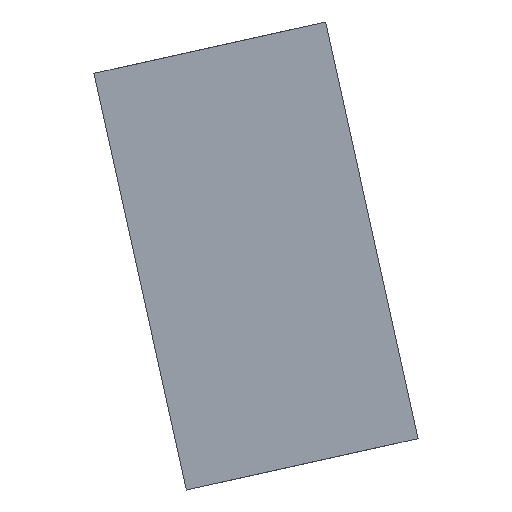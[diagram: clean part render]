
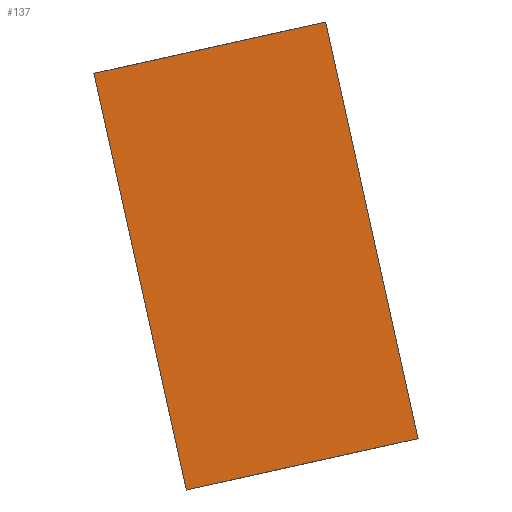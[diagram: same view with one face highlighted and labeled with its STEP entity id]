
A CAD part, front view. The second image highlights one B-rep face of the part: STEP entity #137.
In plain terms, the highlighted planar face has unit normal (0, -1, 0).
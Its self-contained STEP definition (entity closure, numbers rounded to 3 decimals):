
#21 = EDGE_CURVE('',#22,#24,#26,.T.);
#22 = VERTEX_POINT('',#23);
#23 = CARTESIAN_POINT('',(-5.083,229.455,-272.434));
#24 = VERTEX_POINT('',#25);
#25 = CARTESIAN_POINT('',(-13.739,229.455,-233.381));
#26 = SURFACE_CURVE('',#27,(#31,#43),.PCURVE_S1.);
#27 = LINE('',#28,#29);
#28 = CARTESIAN_POINT('',(-5.083,229.455,-272.434));
#29 = VECTOR('',#30,1.);
#30 = DIRECTION('',(-0.216,0.,0.976));
#31 = PCURVE('',#32,#37);
#32 = PLANE('',#33);
#33 = AXIS2_PLACEMENT_3D('',#34,#35,#36);
#34 = CARTESIAN_POINT('',(-5.083,229.455,-272.434));
#35 = DIRECTION('',(0.976,0.,0.216));
#36 = DIRECTION('',(-0.216,0.,0.976));
#37 = DEFINITIONAL_REPRESENTATION('',(#38),#42);
#38 = LINE('',#39,#40);
#39 = CARTESIAN_POINT('',(0.,0.));
#40 = VECTOR('',#41,1.);
#41 = DIRECTION('',(1.,0.));
#42 = ( GEOMETRIC_REPRESENTATION_CONTEXT(2) 
PARAMETRIC_REPRESENTATION_CONTEXT() REPRESENTATION_CONTEXT('2D SPACE',''
  ) );
#43 = PCURVE('',#44,#49);
#44 = PLANE('',#45);
#45 = AXIS2_PLACEMENT_3D('',#46,#47,#48);
#46 = CARTESIAN_POINT('',(-5.083,229.455,-272.434));
#47 = DIRECTION('',(0.,1.,0.));
#48 = DIRECTION('',(-0.216,0.,0.976));
#49 = DEFINITIONAL_REPRESENTATION('',(#50),#54);
#50 = LINE('',#51,#52);
#51 = CARTESIAN_POINT('',(0.,0.));
#52 = VECTOR('',#53,1.);
#53 = DIRECTION('',(1.,0.));
#54 = ( GEOMETRIC_REPRESENTATION_CONTEXT(2) 
PARAMETRIC_REPRESENTATION_CONTEXT() REPRESENTATION_CONTEXT('2D SPACE',''
  ) );
#72 = PLANE('',#73);
#73 = AXIS2_PLACEMENT_3D('',#74,#75,#76);
#74 = CARTESIAN_POINT('',(-5.083,229.455,-272.434));
#75 = DIRECTION('',(-0.216,0.,0.976));
#76 = DIRECTION('',(0.976,0.,0.216));
#126 = PLANE('',#127);
#127 = AXIS2_PLACEMENT_3D('',#128,#129,#130);
#128 = CARTESIAN_POINT('',(-13.739,229.455,-233.381));
#129 = DIRECTION('',(-0.216,0.,0.976));
#130 = DIRECTION('',(0.976,0.,0.216));
#137 = ADVANCED_FACE('',(#138),#44,.F.);
#138 = FACE_BOUND('',#139,.F.);
#139 = EDGE_LOOP('',(#140,#163,#164,#187));
#140 = ORIENTED_EDGE('',*,*,#141,.F.);
#141 = EDGE_CURVE('',#22,#142,#144,.T.);
#142 = VERTEX_POINT('',#143);
#143 = CARTESIAN_POINT('',(16.64,229.455,-267.619));
#144 = SURFACE_CURVE('',#145,(#149,#156),.PCURVE_S1.);
#145 = LINE('',#146,#147);
#146 = CARTESIAN_POINT('',(-5.083,229.455,-272.434));
#147 = VECTOR('',#148,1.);
#148 = DIRECTION('',(0.976,0.,0.216));
#149 = PCURVE('',#44,#150);
#150 = DEFINITIONAL_REPRESENTATION('',(#151),#155);
#151 = LINE('',#152,#153);
#152 = CARTESIAN_POINT('',(0.,0.));
#153 = VECTOR('',#154,1.);
#154 = DIRECTION('',(0.,1.));
#155 = ( GEOMETRIC_REPRESENTATION_CONTEXT(2) 
PARAMETRIC_REPRESENTATION_CONTEXT() REPRESENTATION_CONTEXT('2D SPACE',''
  ) );
#156 = PCURVE('',#72,#157);
#157 = DEFINITIONAL_REPRESENTATION('',(#158),#162);
#158 = LINE('',#159,#160);
#159 = CARTESIAN_POINT('',(0.,0.));
#160 = VECTOR('',#161,1.);
#161 = DIRECTION('',(1.,0.));
#162 = ( GEOMETRIC_REPRESENTATION_CONTEXT(2) 
PARAMETRIC_REPRESENTATION_CONTEXT() REPRESENTATION_CONTEXT('2D SPACE',''
  ) );
#163 = ORIENTED_EDGE('',*,*,#21,.T.);
#164 = ORIENTED_EDGE('',*,*,#165,.T.);
#165 = EDGE_CURVE('',#24,#166,#168,.T.);
#166 = VERTEX_POINT('',#167);
#167 = CARTESIAN_POINT('',(7.984,229.455,-228.566));
#168 = SURFACE_CURVE('',#169,(#173,#180),.PCURVE_S1.);
#169 = LINE('',#170,#171);
#170 = CARTESIAN_POINT('',(-13.739,229.455,-233.381));
#171 = VECTOR('',#172,1.);
#172 = DIRECTION('',(0.976,0.,0.216));
#173 = PCURVE('',#44,#174);
#174 = DEFINITIONAL_REPRESENTATION('',(#175),#179);
#175 = LINE('',#176,#177);
#176 = CARTESIAN_POINT('',(40.,0.));
#177 = VECTOR('',#178,1.);
#178 = DIRECTION('',(0.,1.));
#179 = ( GEOMETRIC_REPRESENTATION_CONTEXT(2) 
PARAMETRIC_REPRESENTATION_CONTEXT() REPRESENTATION_CONTEXT('2D SPACE',''
  ) );
#180 = PCURVE('',#126,#181);
#181 = DEFINITIONAL_REPRESENTATION('',(#182),#186);
#182 = LINE('',#183,#184);
#183 = CARTESIAN_POINT('',(0.,0.));
#184 = VECTOR('',#185,1.);
#185 = DIRECTION('',(1.,0.));
#186 = ( GEOMETRIC_REPRESENTATION_CONTEXT(2) 
PARAMETRIC_REPRESENTATION_CONTEXT() REPRESENTATION_CONTEXT('2D SPACE',''
  ) );
#187 = ORIENTED_EDGE('',*,*,#188,.F.);
#188 = EDGE_CURVE('',#142,#166,#189,.T.);
#189 = SURFACE_CURVE('',#190,(#194,#201),.PCURVE_S1.);
#190 = LINE('',#191,#192);
#191 = CARTESIAN_POINT('',(16.64,229.455,-267.619));
#192 = VECTOR('',#193,1.);
#193 = DIRECTION('',(-0.216,0.,0.976));
#194 = PCURVE('',#44,#195);
#195 = DEFINITIONAL_REPRESENTATION('',(#196),#200);
#196 = LINE('',#197,#198);
#197 = CARTESIAN_POINT('',(0.,22.25));
#198 = VECTOR('',#199,1.);
#199 = DIRECTION('',(1.,0.));
#200 = ( GEOMETRIC_REPRESENTATION_CONTEXT(2) 
PARAMETRIC_REPRESENTATION_CONTEXT() REPRESENTATION_CONTEXT('2D SPACE',''
  ) );
#201 = PCURVE('',#202,#207);
#202 = PLANE('',#203);
#203 = AXIS2_PLACEMENT_3D('',#204,#205,#206);
#204 = CARTESIAN_POINT('',(16.64,229.455,-267.619));
#205 = DIRECTION('',(0.976,0.,0.216));
#206 = DIRECTION('',(-0.216,0.,0.976));
#207 = DEFINITIONAL_REPRESENTATION('',(#208),#212);
#208 = LINE('',#209,#210);
#209 = CARTESIAN_POINT('',(0.,0.));
#210 = VECTOR('',#211,1.);
#211 = DIRECTION('',(1.,0.));
#212 = ( GEOMETRIC_REPRESENTATION_CONTEXT(2) 
PARAMETRIC_REPRESENTATION_CONTEXT() REPRESENTATION_CONTEXT('2D SPACE',''
  ) );
